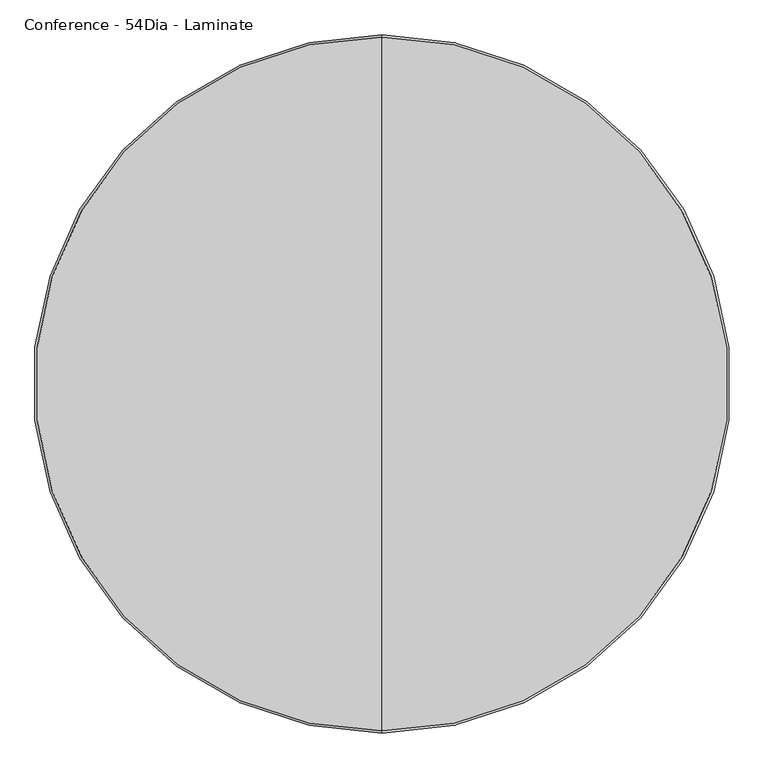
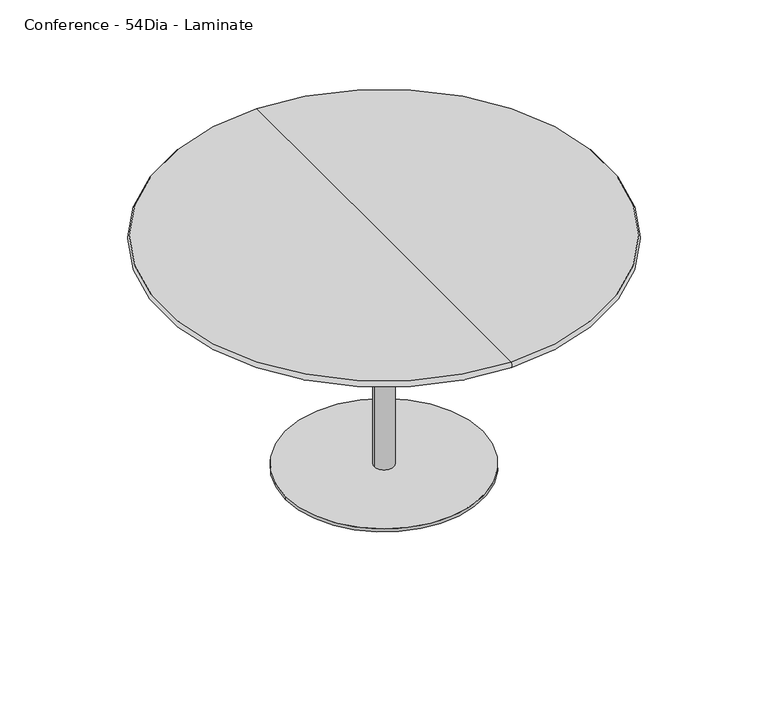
"""IFC4 building model written with IfcOpenShell, lengths in millimetres: furniture geometry, Steelcase Coalesse - Enea - Table - Single Base : Conference - 54Dia - Laminate."""

from ifc_helpers import new_model, si_unit, point, frame, frame_2d, origin, origin_with_axes, place, context, project, spatial, circle_curve, ellipse_curve, trimmed, segment, composite_curve, outline, extrude, source, transform, mapped, element, save
from ifc_brep_helpers import plane_surface, revolved_surface, advanced_brep


def conference_54dia_laminate_d8435889(model_context):
    return source(origin(), model_context, "Body", "SolidModel", [
        extrude(outline(composite_curve([segment(trimmed(circle_curve(frame_2d((537.718, -284.0746893)), 25.4), [point((512.318, -284.0746893))], [point((563.118, -284.0746893))], False, "CARTESIAN"), True, "CONTINUOUS"), segment(trimmed(circle_curve(frame_2d((537.718, -284.0746893)), 25.4), [point((563.118, -284.0746893))], [point((512.318, -284.0746893))], False, "CARTESIAN"), True, "CONTINUOUS")], self_intersect=False)), origin_with_axes(), (0.0, 0.0, 1.0), 6.35),
        extrude(outline(composite_curve([segment(trimmed(circle_curve(frame_2d((791.3613107, -537.3772238)), 25.4), [point((765.9613107, -537.3772238))], [point((816.7613107, -537.3772238))], False, "CARTESIAN"), True, "CONTINUOUS"), segment(trimmed(circle_curve(frame_2d((791.3613107, -537.3772238)), 25.4), [point((816.7613107, -537.3772238))], [point((765.9613107, -537.3772238))], False, "CARTESIAN"), True, "CONTINUOUS")], self_intersect=False)), origin_with_axes(), (0.0, 0.0, 1.0), 6.35),
        extrude(outline(composite_curve([segment(trimmed(circle_curve(frame_2d((284.0746893, -537.3772238)), 25.4), [point((258.6746893, -537.3772238))], [point((309.4746893, -537.3772238))], False, "CARTESIAN"), True, "CONTINUOUS"), segment(trimmed(circle_curve(frame_2d((284.0746893, -537.3772238)), 25.4), [point((309.4746893, -537.3772238))], [point((258.6746893, -537.3772238))], False, "CARTESIAN"), True, "CONTINUOUS")], self_intersect=False)), origin_with_axes(), (0.0, 0.0, 1.0), 6.35),
        extrude(outline(composite_curve([segment(trimmed(circle_curve(frame_2d((537.718, -790.6797584)), 25.4), [point((512.318, -790.6797584))], [point((563.118, -790.6797584))], False, "CARTESIAN"), True, "CONTINUOUS"), segment(trimmed(circle_curve(frame_2d((537.718, -790.6797584)), 25.4), [point((563.118, -790.6797584))], [point((512.318, -790.6797584))], False, "CARTESIAN"), True, "CONTINUOUS")], self_intersect=False)), origin_with_axes(), (0.0, 0.0, 1.0), 6.35),
        advanced_brep(
        [(537.718, -1219.2075871, 762.0), (537.718, 143.7715871, 762.0), (537.718, -537.718, 762.0), (537.718, -1219.2075871, 742.95), (537.718, 143.7715871, 742.95), (537.718, -537.718, 742.95)],
        [
            (0, 1, circle_curve(frame((537.718, -537.718, 762.0), z_axis=(0.0, 0.0, 1.0), x_axis=(0.0, 1.0, 0.0)), 681.4895871)),
            (1, 2),
            (2, 0),
            (1, 0, circle_curve(frame((537.718, -537.718, 762.0), z_axis=(0.0, 0.0, 1.0), x_axis=(0.0, 1.0, 0.0)), 681.4895871)),
            (3, 4, circle_curve(frame((537.718, -537.718, 742.95), z_axis=(0.0, 0.0, 1.0), x_axis=(0.0, 1.0, 0.0)), 681.4895871)),
            (4, 1, circle_curve(frame((537.718, 135.4031554, 752.475), z_axis=(1.0, 0.0, 0.0), x_axis=(0.0, -1.0, 0.0)), 12.6789697)),
            (0, 3, circle_curve(frame((537.718, -1210.8391554, 752.475), z_axis=(1.0, 0.0, 0.0), x_axis=(0.0, 1.0, 0.0)), 12.6789697)),
            (4, 3, circle_curve(frame((537.718, -537.718, 742.95), z_axis=(0.0, 0.0, 1.0), x_axis=(0.0, 1.0, 0.0)), 681.4895871)),
            (5, 4),
            (3, 5),
        ],
        [
            plane_surface(frame((537.718, -537.718, 762.0), z_axis=(0.0, 0.0, 1.0), x_axis=(0.0, 1.0, 0.0))),
            revolved_surface(trimmed(ellipse_curve(frame((537.718, 135.4031554, 752.475), z_axis=(-1.0, 0.0, 0.0), x_axis=(0.0, -1.0, 0.0)), 12.6789697, 12.6789697), [point((537.718, 143.7715871, 762.0))], [point((537.718, 143.7715871, 742.95))], True, "CARTESIAN"), (537.718, -537.718, 803.5678651), (0.0, 0.0, -1.0)),
            plane_surface(frame((537.718, -537.718, 742.95), z_axis=(0.0, 0.0, -1.0), x_axis=(0.0, 1.0, 0.0))),
        ],
        [
            (0, [[1, 2, 3]]),
            (0, [[4, -3, -2]]),
            (1, [[5, 6, -1, 7]]),
            (1, [[8, -7, -4, -6]]),
            (2, [[9, -5, 10]]),
            (2, [[-10, -8, -9]]),
        ],
    ),
        extrude(outline(composite_curve([segment(trimmed(circle_curve(frame_2d((537.718, -537.718)), 304.8), [point((842.518, -537.718))], [point((232.918, -537.718))], False, "CARTESIAN"), True, "CONTINUOUS"), segment(trimmed(circle_curve(frame_2d((537.718, -537.718)), 304.8), [point((232.918, -537.718))], [point((842.518, -537.718))], False, "CARTESIAN"), True, "CONTINUOUS")], self_intersect=False)), frame((0.0, 0.0, 6.35), z_axis=(0.0, 0.0, 1.0), x_axis=(1.0, 0.0, 0.0)), (0.0, 0.0, 1.0), 9.525),
        extrude(outline(composite_curve([segment(trimmed(circle_curve(frame_2d((537.7182907, -537.7179273)), 30.0214725), [point((567.7397632, -537.7179273))], [point((507.6968182, -537.7179273))], False, "CARTESIAN"), True, "CONTINUOUS"), segment(trimmed(circle_curve(frame_2d((537.7182907, -537.7179273)), 30.0214725), [point((507.6968182, -537.7179273))], [point((567.7397632, -537.7179273))], False, "CARTESIAN"), True, "CONTINUOUS")], self_intersect=False)), frame((0.0, 0.0, 15.875), z_axis=(0.0, 0.0, 1.0), x_axis=(1.0, 0.0, 0.0)), (0.0, 0.0, 1.0), 727.075),
    ])


if __name__ == "__main__":
    model = new_model("IFC4")
    model_context = context("Model", 3, world=origin())
    ifc_project = project(units=[si_unit("LENGTHUNIT", "METRE", prefix="MILLI")], contexts=[model_context])
    site = spatial("IfcSite", under=ifc_project)
    building = spatial("IfcBuilding", under=site)
    placement = place(None, origin())
    conference_54dia_laminate_shape = conference_54dia_laminate_d8435889(model_context)
    element("IfcFurniture", 1, ObjectType="Steelcase Coalesse - Enea - Table - Single Base : Conference - 54Dia - Laminate", at=placement, inside=building, context=model_context, shape_type="MappedRepresentation", body=[
        mapped(conference_54dia_laminate_shape, transform((0.0, 0.0, 0.0), x_axis=(1.0, 0.0, 0.0), y_axis=(0.0, 1.0, 0.0), z_axis=(0.0, 0.0, 1.0))),
    ])
    save(model, "model.ifc")
